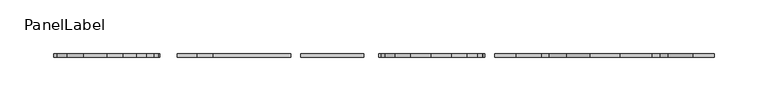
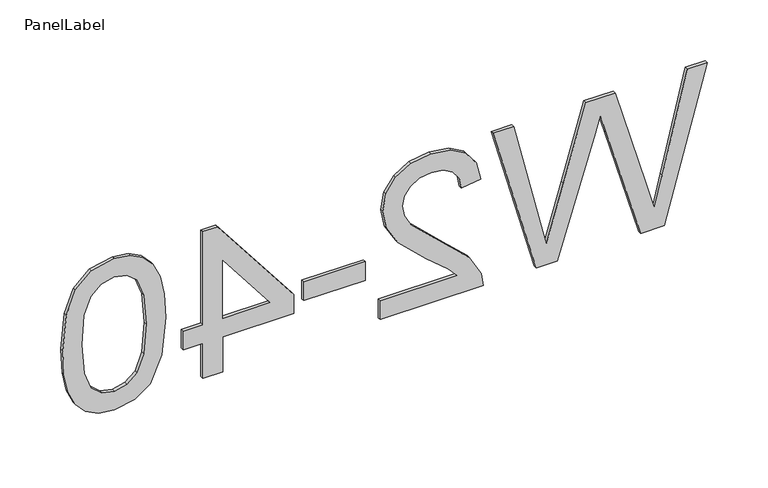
"""IFC4 building model written with IfcOpenShell, lengths in millimetres: fastener geometry, PanelLabel : Miranda."""

from ifc_helpers import new_model, si_unit, frame, origin, place, context, project, spatial, polyline, outline, extrude, source, transform, mapped, element, save


def panellabel_1b34edc0(model_context):
    return source(origin(), model_context, "Body", "SweptSolid", [
        extrude(outline(polyline([(1310.9113766, 268.5683654), (1460.9667612, 309.4892308), (1460.9667612, 290.1461538), (1362.3463766, 266.4069231), (1331.9030112, 259.08), (1358.8294535, 251.2401923), (1460.9667612, 221.4928846), (1460.9667612, 193.6139423), (1386.9282035, 171.9995192), (1331.9030112, 155.9169231), (1361.4671458, 148.8098077), (1460.9667612, 124.8507692), (1460.9667612, 105.5076923), (1310.9113766, 146.4651923), (1310.9113766, 166.5043269), (1426.6767612, 202.4795192), (1442.8326266, 207.4984615), (1423.3796458, 213.1401923), (1310.9113766, 245.9281731), (1310.9113766, 268.5683654)])), frame((0.0, 100.80625, 0.0), z_axis=(0.0, 1.0, 0.0), x_axis=(0.0, 0.0, 1.0)), (0.0, 0.0, 1.0), 3.175),
        extrude(outline(polyline([(1329.6682997, -2.3446154), (1310.9113766, -2.3446154), (1310.9113766, 96.1292308), (1323.8433958, 94.1143269), (1343.7543093, 82.7209615), (1365.4969535, 59.2381731), (1396.7462804, 26.8531731), (1407.5168573, 20.7809856), (1417.9943573, 18.7569231), (1427.3865569, 20.6665024), (1435.1943093, 26.3952404), (1440.4559559, 35.2012861), (1442.2098381, 46.3427885), (1440.4971698, 58.0429688), (1435.359165, 67.1329327), (1427.1988045, 72.9990505), (1416.4190689, 75.0276923), (1418.7636843, 93.7846154), (1436.9069775, 89.2373438), (1450.1595497, 79.4055288), (1458.2649583, 64.8020553), (1460.9667612, 45.9398077), (1457.9627227, 26.9401803), (1448.9506073, 12.3641827), (1435.4873862, 3.0910457), (1419.1300304, 0.0), (1401.3439247, 3.33375), (1382.9533477, 14.4157212), (1357.254165, 41.2872115), (1339.211617, 62.865), (1329.6682997, 71.3275962), (1329.6682997, -2.3446154)])), frame((0.0, 100.80625, 0.0), z_axis=(0.0, 1.0, 0.0), x_axis=(0.0, 0.0, 1.0)), (0.0, 0.0, 1.0), 3.175),
        extrude(outline(polyline([(-75.0276923, 103.98125), (-16.4123077, 103.98125), (-16.4123077, 100.80625), (-75.0276923, 100.80625), (-75.0276923, 103.98125)])), frame((0.0, 0.0, 1355.4590689), z_axis=(0.0, 0.0, 1.0), x_axis=(1.0, 0.0, 0.0)), (0.0, 0.0, 1.0), 18.7569231),
        extrude(outline(polyline([(1310.9113766, -152.4), (1346.0806073, -152.4), (1346.0806073, -84.4061538), (1364.8375304, -84.4061538), (1458.6221458, -157.0892308), (1458.6221458, -171.1569231), (1364.8375304, -171.1569231), (1364.8375304, -189.9138462), (1346.0806073, -189.9138462), (1346.0806073, -171.1569231), (1310.9113766, -171.1569231), (1310.9113766, -152.4)]), holes=[polyline([(1364.8375304, -152.4), (1422.793492, -152.4), (1364.8375304, -107.4859615), (1364.8375304, -152.4)])]), frame((0.0, 100.80625, 0.0), z_axis=(0.0, 1.0, 0.0), x_axis=(0.0, 0.0, 1.0)), (0.0, 0.0, 1.0), 3.175),
        extrude(outline(polyline([(1384.7301266, -206.3261538), (1408.7486963, -207.7045312), (1427.9040208, -211.8396635), (1442.4891771, -218.6903365), (1452.797242, -228.2153365), (1458.9243814, -240.4833534), (1460.9667612, -255.5630769), (1456.130992, -277.4705769), (1442.1915208, -292.6006731), (1419.9909439, -301.3929808), (1384.7301266, -304.8), (1360.8489367, -303.4353606), (1341.7394054, -299.3414423), (1327.1405112, -292.5319832), (1316.7912323, -283.0207212), (1310.622879, -270.7252284), (1308.5667612, -255.5630769), (1312.1386362, -236.0734615), (1322.8542612, -221.2730769), (1348.232891, -210.0628846), (1384.7301266, -206.3261538)]), holes=[polyline([(1384.7667612, -225.0830769), (1355.2621578, -227.2811538), (1338.1858477, -233.8753846), (1330.0392251, -243.6934615), (1327.3236843, -255.5630769), (1330.0483838, -267.4326923), (1338.2224823, -277.2507692), (1355.3079511, -283.845), (1384.7667612, -286.0430769), (1413.6073622, -283.9182692), (1430.8164727, -277.5438462), (1439.3614968, -267.7440865), (1442.2098381, -255.3432692), (1439.700367, -243.601875), (1432.1719535, -234.1684615), (1413.8912804, -227.3544231), (1384.7667612, -225.0830769)])]), frame((0.0, 100.80625, 0.0), z_axis=(0.0, 1.0, 0.0), x_axis=(0.0, 0.0, 1.0)), (0.0, 0.0, 1.0), 3.175),
    ])


if __name__ == "__main__":
    model = new_model("IFC4")
    model_context = context("Model", 3, world=origin())
    ifc_project = project(units=[si_unit("LENGTHUNIT", "METRE", prefix="MILLI")], contexts=[model_context])
    site = spatial("IfcSite", under=ifc_project)
    building = spatial("IfcBuilding", under=site)
    placement = place(None, origin())
    panellabel_shape = panellabel_1b34edc0(model_context)
    element("IfcFastener", 1, ObjectType="PanelLabel : Miranda", at=placement, inside=building, context=model_context, shape_type="MappedRepresentation", body=[
        mapped(panellabel_shape, transform((0.0, 0.0, 0.0), x_axis=(1.0, 0.0, 0.0), y_axis=(0.0, 1.0, 0.0), z_axis=(0.0, 0.0, 1.0))),
    ])
    save(model, "model.ifc")
